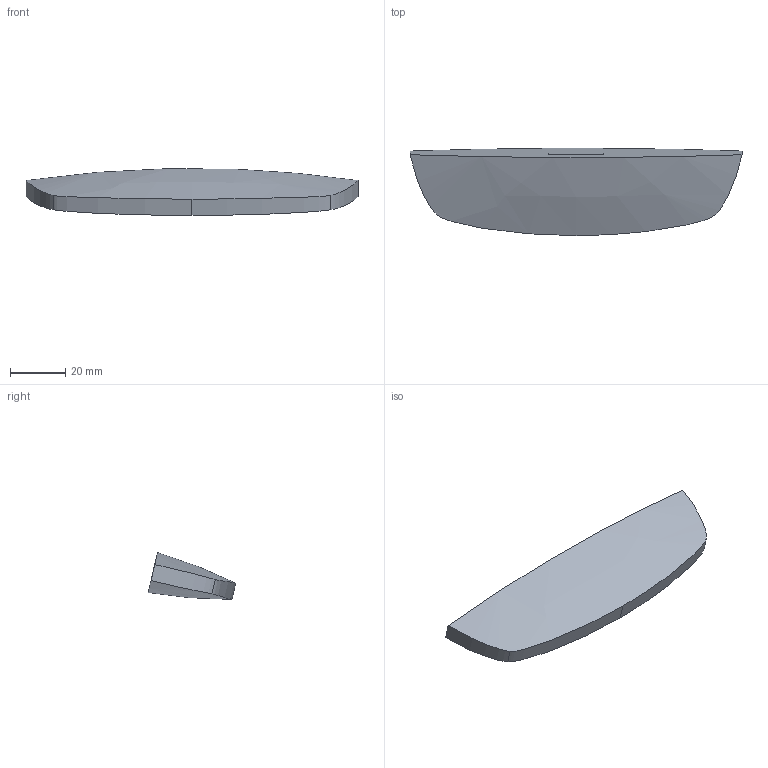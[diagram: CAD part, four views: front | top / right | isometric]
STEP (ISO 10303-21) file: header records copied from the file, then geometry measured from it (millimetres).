
FILE_DESCRIPTION(('Open CASCADE Model'),'2;1');
FILE_NAME('Open CASCADE Shape Model','2026-10-14T14:25:24',('Author'),( 'Open CASCADE'),'Open CASCADE STEP processor 7.8','Open CASCADE 7.8' ,'Unknown');
FILE_SCHEMA(('AUTOMOTIVE_DESIGN { 1 0 10303 214 1 1 1 1 }'));
Length unit declared in the file: millimetre
Products named in the file (1): Open CASCADE STEP translator 7.8 8
Bounding box: 120 x 31.57 x 16.89 mm (x, y, z)
Volume: 30060.9 mm3; surface area: 8536.9 mm2
Topology: 1 solids, 1 shells, 16 faces, 39 edges, 26 vertices
Faces by surface type: bspline 15, cylinder 1
Entity records: 3119 total; most frequent: CARTESIAN_POINT 2534, B_SPLINE_CURVE_WITH_KNOTS 91, ORIENTED_EDGE 78, PCURVE 78, DEFINITIONAL_REPRESENTATION 78, EDGE_CURVE 39, SURFACE_CURVE 39, DIRECTION 28
